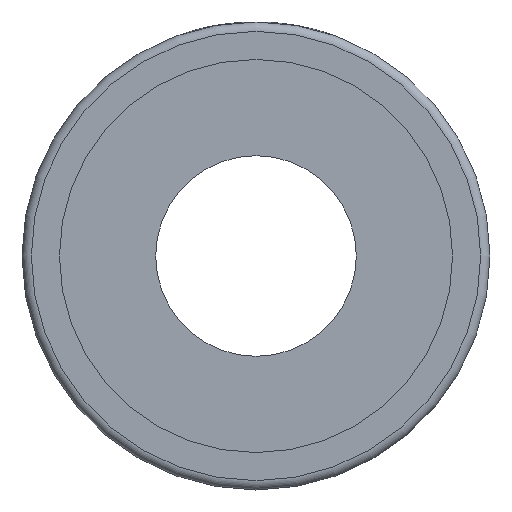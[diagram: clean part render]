
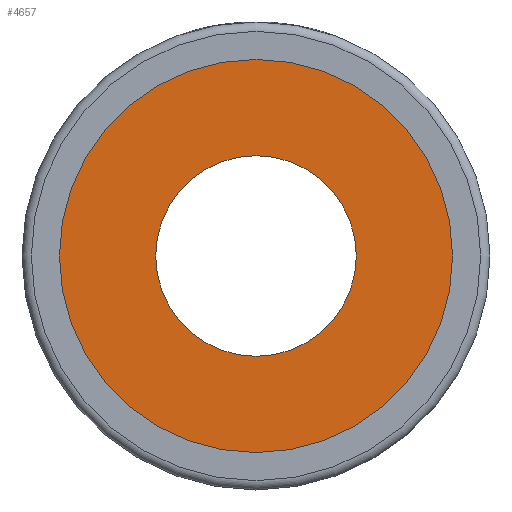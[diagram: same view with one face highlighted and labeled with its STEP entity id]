
A CAD part, left-side view. The second image highlights one B-rep face of the part: STEP entity #4657.
In plain terms, the highlighted planar face has unit normal (-1, 0, 0).
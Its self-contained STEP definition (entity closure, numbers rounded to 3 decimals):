
#114=PLANE('',#5022);
#325=CIRCLE('',#5019,2.94);
#327=CIRCLE('',#5023,1.5);
#1395=ORIENTED_EDGE('',*,*,#2798,.F.);
#1396=ORIENTED_EDGE('',*,*,#2796,.F.);
#2796=EDGE_CURVE('',#3500,#3500,#325,.T.);
#2798=EDGE_CURVE('',#3502,#3502,#327,.T.);
#3500=VERTEX_POINT('',#7133);
#3502=VERTEX_POINT('',#7139);
#3984=EDGE_LOOP('',(#1395));
#3985=EDGE_LOOP('',(#1396));
#4318=FACE_BOUND('',#3984,.T.);
#4319=FACE_BOUND('',#3985,.T.);
#4657=ADVANCED_FACE('',(#4318,#4319),#114,.T.);
#5019=AXIS2_PLACEMENT_3D('',#7132,#5497,#5498);
#5022=AXIS2_PLACEMENT_3D('',#7137,#5503,#5504);
#5023=AXIS2_PLACEMENT_3D('',#7138,#5505,#5506);
#5497=DIRECTION('',(1.,0.,0.));
#5498=DIRECTION('',(0.,-1.,0.));
#5503=DIRECTION('',(-1.,0.,0.));
#5504=DIRECTION('',(0.,0.,1.));
#5505=DIRECTION('',(-1.,0.,0.));
#5506=DIRECTION('',(0.,0.,1.));
#7132=CARTESIAN_POINT('',(-4.9,0.,0.));
#7133=CARTESIAN_POINT('',(-4.9,-2.94,0.));
#7137=CARTESIAN_POINT('',(-4.9,0.,0.));
#7138=CARTESIAN_POINT('',(-4.9,0.,0.));
#7139=CARTESIAN_POINT('',(-4.9,0.,1.5));
